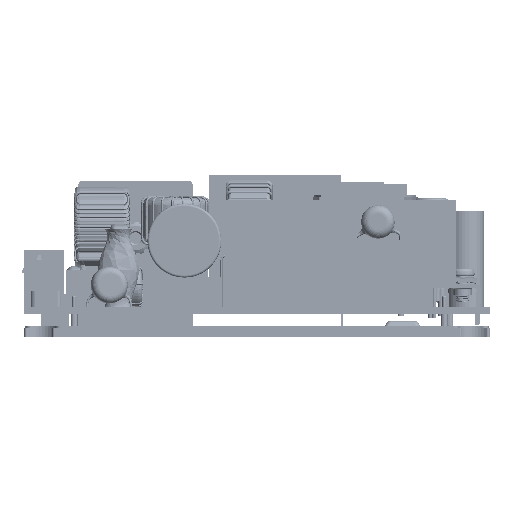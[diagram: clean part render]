
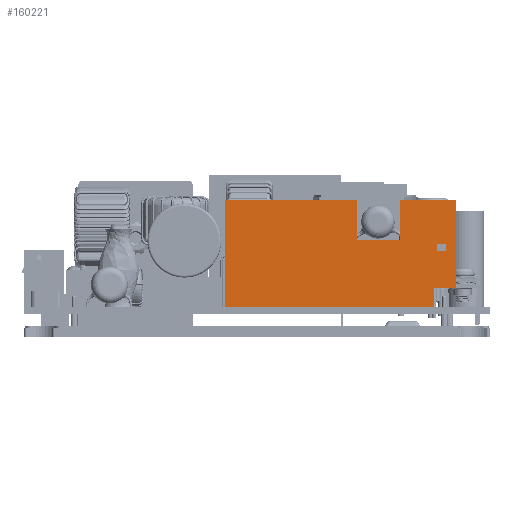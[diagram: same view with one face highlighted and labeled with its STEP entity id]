
A CAD part, top view. The second image highlights one B-rep face of the part: STEP entity #160221.
In plain terms, the highlighted planar face has unit normal (0, 0, 1) as drawn and (0, -1, 0) by its records, which use the part's own axes.
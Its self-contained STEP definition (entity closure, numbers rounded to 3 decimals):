
#160076 = ORIENTED_EDGE ( 'NONE', *, *, #160327, .T. ) ;
#160133 = EDGE_CURVE ( 'NONE', #160137, #160143, #237794, .T. ) ;
#160137 = VERTEX_POINT ( 'NONE', #237926 ) ;
#160143 = VERTEX_POINT ( 'NONE', #237901 ) ;
#160221 = ADVANCED_FACE ( 'NONE', ( #238584, #238582 ), #238580, .F. ) ;
#160226 = EDGE_LOOP ( 'NONE', ( #160235, #160278, #160295, #160302, #160076, #160360, #160385, #160413, #160445, #160474 ) ) ;
#160235 = ORIENTED_EDGE ( 'NONE', *, *, #160247, .F. ) ;
#160247 = EDGE_CURVE ( 'NONE', #160251, #160260, #238938, .T. ) ;
#160251 = VERTEX_POINT ( 'NONE', #238918 ) ;
#160260 = VERTEX_POINT ( 'NONE', #239061 ) ;
#160278 = ORIENTED_EDGE ( 'NONE', *, *, #160279, .F. ) ;
#160279 = EDGE_CURVE ( 'NONE', #160143, #160251, #239244, .T. ) ;
#160295 = ORIENTED_EDGE ( 'NONE', *, *, #160133, .F. ) ;
#160302 = ORIENTED_EDGE ( 'NONE', *, *, #160309, .T. ) ;
#160309 = EDGE_CURVE ( 'NONE', #160137, #160312, #239727, .T. ) ;
#160312 = VERTEX_POINT ( 'NONE', #239716 ) ;
#160327 = EDGE_CURVE ( 'NONE', #160312, #160337, #240038, .T. ) ;
#160337 = VERTEX_POINT ( 'NONE', #240210 ) ;
#160360 = ORIENTED_EDGE ( 'NONE', *, *, #160365, .F. ) ;
#160365 = EDGE_CURVE ( 'NONE', #160371, #160337, #240473, .T. ) ;
#160371 = VERTEX_POINT ( 'NONE', #240600 ) ;
#160385 = ORIENTED_EDGE ( 'NONE', *, *, #160394, .F. ) ;
#160394 = EDGE_CURVE ( 'NONE', #160399, #160371, #240525, .T. ) ;
#160399 = VERTEX_POINT ( 'NONE', #240687 ) ;
#160413 = ORIENTED_EDGE ( 'NONE', *, *, #160425, .F. ) ;
#160425 = EDGE_CURVE ( 'NONE', #160434, #160399, #240641, .T. ) ;
#160434 = VERTEX_POINT ( 'NONE', #240735 ) ;
#160445 = ORIENTED_EDGE ( 'NONE', *, *, #160459, .F. ) ;
#160459 = EDGE_CURVE ( 'NONE', #160464, #160434, #240796, .T. ) ;
#160464 = VERTEX_POINT ( 'NONE', #240782 ) ;
#160474 = ORIENTED_EDGE ( 'NONE', *, *, #160503, .F. ) ;
#160503 = EDGE_CURVE ( 'NONE', #160260, #160464, #241121, .T. ) ;
#160514 = EDGE_LOOP ( 'NONE', ( #160521, #160557, #160598, #160623 ) ) ;
#160521 = ORIENTED_EDGE ( 'NONE', *, *, #160528, .F. ) ;
#160528 = EDGE_CURVE ( 'NONE', #160539, #160546, #241139, .T. ) ;
#160539 = VERTEX_POINT ( 'NONE', #241262 ) ;
#160546 = VERTEX_POINT ( 'NONE', #241218 ) ;
#160557 = ORIENTED_EDGE ( 'NONE', *, *, #160571, .F. ) ;
#160571 = EDGE_CURVE ( 'NONE', #160577, #160539, #241334, .T. ) ;
#160577 = VERTEX_POINT ( 'NONE', #241495 ) ;
#160598 = ORIENTED_EDGE ( 'NONE', *, *, #160612, .F. ) ;
#160612 = EDGE_CURVE ( 'NONE', #160615, #160577, #241520, .T. ) ;
#160615 = VERTEX_POINT ( 'NONE', #241508 ) ;
#160623 = ORIENTED_EDGE ( 'NONE', *, *, #160633, .F. ) ;
#160633 = EDGE_CURVE ( 'NONE', #160546, #160615, #241637, .T. ) ;
#237784 = DIRECTION ( 'NONE',  ( 1., 0., 0. ) ) ;
#237787 = VECTOR ( 'NONE', #237784, 1000. ) ;
#237790 = CARTESIAN_POINT ( 'NONE',  ( 103.167, 59.472, 23.4 ) ) ;
#237794 = LINE ( 'NONE', #237790, #237787 ) ;
#237901 = CARTESIAN_POINT ( 'NONE',  ( 131.767, 59.472, 23.4 ) ) ;
#237926 = CARTESIAN_POINT ( 'NONE',  ( 103.167, 59.472, 23.4 ) ) ;
#238573 = AXIS2_PLACEMENT_3D ( 'NONE', #238748, #238746, #238743 ) ;
#238580 = PLANE ( 'NONE',  #238573 ) ;
#238582 = FACE_BOUND ( 'NONE', #160514, .T. ) ;
#238584 = FACE_OUTER_BOUND ( 'NONE', #160226, .T. ) ;
#238743 = DIRECTION ( 'NONE',  ( 0., 0., 1. ) ) ;
#238746 = DIRECTION ( 'NONE',  ( 0., 1., 0. ) ) ;
#238748 = CARTESIAN_POINT ( 'NONE',  ( 103.167, 59.472, 23.4 ) ) ;
#238918 = CARTESIAN_POINT ( 'NONE',  ( 131.767, 59.472, 14.8 ) ) ;
#238930 = DIRECTION ( 'NONE',  ( 1., 0., 0. ) ) ;
#238931 = VECTOR ( 'NONE', #238930, 1000. ) ;
#238934 = CARTESIAN_POINT ( 'NONE',  ( 131.767, 59.472, 14.8 ) ) ;
#238938 = LINE ( 'NONE', #238934, #238931 ) ;
#239061 = CARTESIAN_POINT ( 'NONE',  ( 141.267, 59.472, 14.8 ) ) ;
#239244 = LINE ( 'NONE', #239259, #239248 ) ;
#239247 = DIRECTION ( 'NONE',  ( 0., 0., -1. ) ) ;
#239248 = VECTOR ( 'NONE', #239247, 1000. ) ;
#239259 = CARTESIAN_POINT ( 'NONE',  ( 131.767, 59.472, 23.4 ) ) ;
#239716 = CARTESIAN_POINT ( 'NONE',  ( 103.167, 59.472, 0. ) ) ;
#239722 = DIRECTION ( 'NONE',  ( 0., 0., -1. ) ) ;
#239723 = VECTOR ( 'NONE', #239722, 1000. ) ;
#239724 = CARTESIAN_POINT ( 'NONE',  ( 103.167, 59.472, 23.4 ) ) ;
#239727 = LINE ( 'NONE', #239724, #239723 ) ;
#240031 = DIRECTION ( 'NONE',  ( 1., 0., 0. ) ) ;
#240034 = VECTOR ( 'NONE', #240031, 1000. ) ;
#240036 = CARTESIAN_POINT ( 'NONE',  ( 103.167, 59.472, 0. ) ) ;
#240038 = LINE ( 'NONE', #240036, #240034 ) ;
#240210 = CARTESIAN_POINT ( 'NONE',  ( 148.367, 59.472, 0. ) ) ;
#240468 = DIRECTION ( 'NONE',  ( 0., 0., -1. ) ) ;
#240469 = VECTOR ( 'NONE', #240468, 1000. ) ;
#240471 = CARTESIAN_POINT ( 'NONE',  ( 148.367, 59.472, 4.2 ) ) ;
#240473 = LINE ( 'NONE', #240471, #240469 ) ;
#240520 = DIRECTION ( 'NONE',  ( -1., 0., 0. ) ) ;
#240522 = VECTOR ( 'NONE', #240520, 1000. ) ;
#240524 = CARTESIAN_POINT ( 'NONE',  ( 153.367, 59.472, 4.2 ) ) ;
#240525 = LINE ( 'NONE', #240524, #240522 ) ;
#240600 = CARTESIAN_POINT ( 'NONE',  ( 148.367, 59.472, 4.2 ) ) ;
#240635 = DIRECTION ( 'NONE',  ( 0., 0., -1. ) ) ;
#240637 = VECTOR ( 'NONE', #240635, 1000. ) ;
#240639 = CARTESIAN_POINT ( 'NONE',  ( 153.367, 59.472, 23.4 ) ) ;
#240641 = LINE ( 'NONE', #240639, #240637 ) ;
#240687 = CARTESIAN_POINT ( 'NONE',  ( 153.367, 59.472, 4.2 ) ) ;
#240735 = CARTESIAN_POINT ( 'NONE',  ( 153.367, 59.472, 23.4 ) ) ;
#240782 = CARTESIAN_POINT ( 'NONE',  ( 141.267, 59.472, 23.4 ) ) ;
#240786 = DIRECTION ( 'NONE',  ( 1., 0., 0. ) ) ;
#240790 = VECTOR ( 'NONE', #240786, 1000. ) ;
#240794 = CARTESIAN_POINT ( 'NONE',  ( 103.167, 59.472, 23.4 ) ) ;
#240796 = LINE ( 'NONE', #240794, #240790 ) ;
#241118 = DIRECTION ( 'NONE',  ( 0., 0., 1. ) ) ;
#241119 = VECTOR ( 'NONE', #241118, 1000. ) ;
#241120 = CARTESIAN_POINT ( 'NONE',  ( 141.267, 59.472, 23.4 ) ) ;
#241121 = LINE ( 'NONE', #241120, #241119 ) ;
#241139 = LINE ( 'NONE', #241173, #241150 ) ;
#241149 = DIRECTION ( 'NONE',  ( 0., 0., -1. ) ) ;
#241150 = VECTOR ( 'NONE', #241149, 1000. ) ;
#241173 = CARTESIAN_POINT ( 'NONE',  ( 149.367, 59.472, 13.9 ) ) ;
#241218 = CARTESIAN_POINT ( 'NONE',  ( 149.367, 59.472, 12.3 ) ) ;
#241262 = CARTESIAN_POINT ( 'NONE',  ( 149.367, 59.472, 13.9 ) ) ;
#241329 = VECTOR ( 'NONE', #241497, 1000. ) ;
#241332 = CARTESIAN_POINT ( 'NONE',  ( 149.367, 59.472, 13.9 ) ) ;
#241334 = LINE ( 'NONE', #241332, #241329 ) ;
#241495 = CARTESIAN_POINT ( 'NONE',  ( 151.367, 59.472, 13.9 ) ) ;
#241497 = DIRECTION ( 'NONE',  ( -1., 0., 0. ) ) ;
#241508 = CARTESIAN_POINT ( 'NONE',  ( 151.367, 59.472, 12.3 ) ) ;
#241516 = DIRECTION ( 'NONE',  ( 0., 0., 1. ) ) ;
#241518 = VECTOR ( 'NONE', #241516, 1000. ) ;
#241519 = CARTESIAN_POINT ( 'NONE',  ( 151.367, 59.472, 13.9 ) ) ;
#241520 = LINE ( 'NONE', #241519, #241518 ) ;
#241628 = DIRECTION ( 'NONE',  ( 1., 0., 0. ) ) ;
#241630 = VECTOR ( 'NONE', #241628, 1000. ) ;
#241634 = CARTESIAN_POINT ( 'NONE',  ( 149.367, 59.472, 12.3 ) ) ;
#241637 = LINE ( 'NONE', #241634, #241630 ) ;
